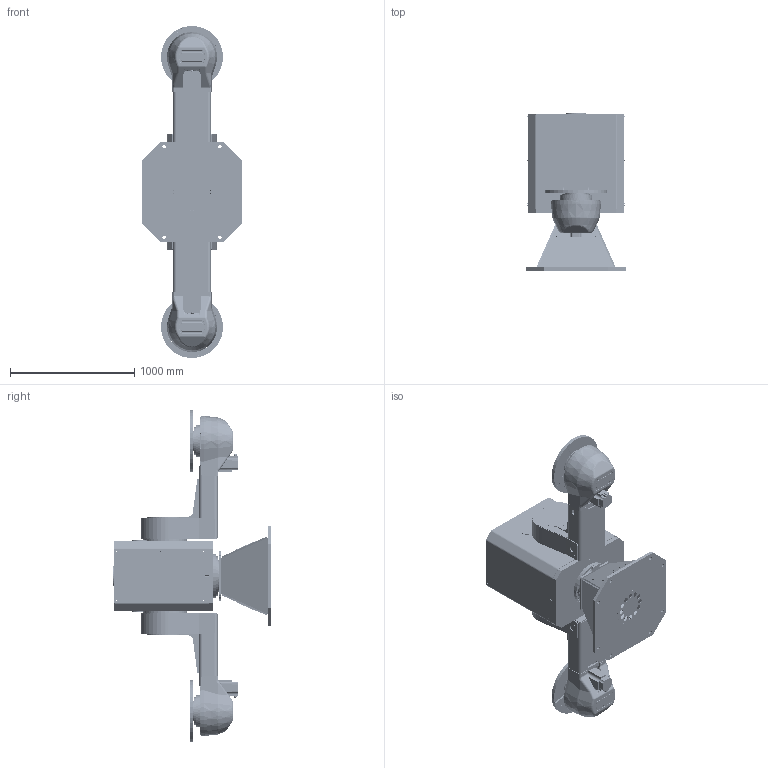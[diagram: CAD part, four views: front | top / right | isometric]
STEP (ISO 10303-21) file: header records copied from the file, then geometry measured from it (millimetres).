
FILE_DESCRIPTION (( 'STEP AP214' ), '1' );
FILE_NAME ('140677red.STEP', '2008-10-27T08:59:53', ( ' ' ), ( ' ' ), 'SwSTEP 2.0', 'SolidWorks 2008', '' );
FILE_SCHEMA (( 'AUTOMOTIVE_DESIGN' ));
Length unit declared in the file: millimetre
Products named in the file (5): 140677red; 139590red_Standard; L-250red_Standard; 139602red_Standard; 141204red_Standard
Assembly tree (6 placements, depth 2):
  140677red
    139590red_Standard
    139602red_Standard
    L-250red_Standard  x2
    141204red_Standard  x2
Bounding box: 810 x 1267.5 x 2674.86 mm (x, y, z)
Volume: 59384570.5 mm3; surface area: 17061576.9 mm2
Topology: 42 solids, 75 shells, 3440 faces, 9896 edges, 6442 vertices
Faces by surface type: cylinder 2002, plane 960, cone 256, torus 126, bspline 64, sphere 32
Entity records: 102270 total; most frequent: CARTESIAN_POINT 15972, DIRECTION 13944, ORIENTED_EDGE 11824, EDGE_CURVE 6641, AXIS2_PLACEMENT_3D 5262, VERTEX_POINT 4488, VECTOR 3420, LINE 3420
